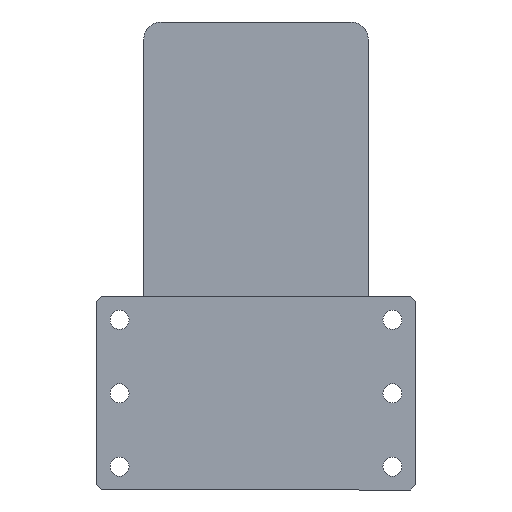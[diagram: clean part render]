
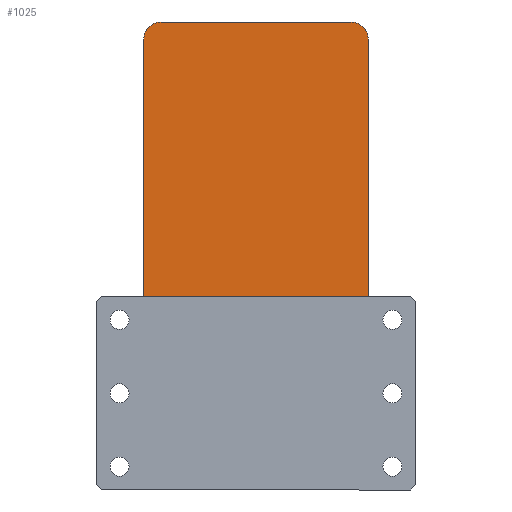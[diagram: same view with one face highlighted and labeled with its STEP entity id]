
A CAD part, left-side view. The second image highlights one B-rep face of the part: STEP entity #1025.
In plain terms, the highlighted planar face has unit normal (-1, 0, 0) as drawn and (0, 0, 1) by its records, which use the part's own axes.
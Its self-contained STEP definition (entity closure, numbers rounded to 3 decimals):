
#152 = DIRECTION ( 'NONE',  ( 1., 0., 0. ) ) ;
#250 = CARTESIAN_POINT ( 'NONE',  ( 0., 0., 105. ) ) ;
#677 = VERTEX_POINT ( 'NONE', #6018 ) ;
#1025 = ADVANCED_FACE ( 'NONE', ( #7111 ), #14486, .T. ) ;
#1672 = AXIS2_PLACEMENT_3D ( 'NONE', #17297, #17255, #17180 ) ;
#2142 = EDGE_LOOP ( 'NONE', ( #23034, #5863, #17728, #5828, #2657, #14661, #10537, #8788 ) ) ;
#2657 = ORIENTED_EDGE ( 'NONE', *, *, #6091, .T. ) ;
#3233 = VERTEX_POINT ( 'NONE', #5227 ) ;
#3436 = VERTEX_POINT ( 'NONE', #20830 ) ;
#4729 = VERTEX_POINT ( 'NONE', #19080 ) ;
#5131 = CIRCLE ( 'NONE', #8471, 10. ) ;
#5227 = CARTESIAN_POINT ( 'NONE',  ( -55., -135., 105. ) ) ;
#5479 = AXIS2_PLACEMENT_3D ( 'NONE', #250, #11983, #152 ) ;
#5594 = CIRCLE ( 'NONE', #1672, 10. ) ;
#5670 = EDGE_CURVE ( 'NONE', #10056, #15670, #12914, .T. ) ;
#5767 = CIRCLE ( 'NONE', #19771, 10. ) ;
#5828 = ORIENTED_EDGE ( 'NONE', *, *, #8719, .T. ) ;
#5863 = ORIENTED_EDGE ( 'NONE', *, *, #8614, .T. ) ;
#5926 = CIRCLE ( 'NONE', #14294, 10. ) ;
#6018 = CARTESIAN_POINT ( 'NONE',  ( -55., 135., 105. ) ) ;
#6091 = EDGE_CURVE ( 'NONE', #3436, #677, #11965, .T. ) ;
#6906 = LINE ( 'NONE', #23018, #6960 ) ;
#6960 = VECTOR ( 'NONE', #22925, 1000. ) ;
#7099 = CARTESIAN_POINT ( 'NONE',  ( -65., 135., 105. ) ) ;
#7111 = FACE_OUTER_BOUND ( 'NONE', #2142, .T. ) ;
#7826 = EDGE_CURVE ( 'NONE', #7908, #15926, #8457, .T. ) ;
#7908 = VERTEX_POINT ( 'NONE', #15443 ) ;
#8275 = EDGE_CURVE ( 'NONE', #3233, #4729, #6906, .T. ) ;
#8429 = VECTOR ( 'NONE', #20681, 1000. ) ;
#8457 = LINE ( 'NONE', #7099, #8429 ) ;
#8471 = AXIS2_PLACEMENT_3D ( 'NONE', #16518, #16495, #16465 ) ;
#8614 = EDGE_CURVE ( 'NONE', #4729, #10056, #5926, .T. ) ;
#8678 = CARTESIAN_POINT ( 'NONE',  ( -65., -125., 105. ) ) ;
#8719 = EDGE_CURVE ( 'NONE', #15670, #3436, #5767, .T. ) ;
#8788 = ORIENTED_EDGE ( 'NONE', *, *, #8948, .T. ) ;
#8880 = EDGE_CURVE ( 'NONE', #677, #7908, #5594, .T. ) ;
#8948 = EDGE_CURVE ( 'NONE', #15926, #3233, #5131, .T. ) ;
#10056 = VERTEX_POINT ( 'NONE', #23150 ) ;
#10537 = ORIENTED_EDGE ( 'NONE', *, *, #7826, .T. ) ;
#11497 = CARTESIAN_POINT ( 'NONE',  ( 65., 125., 105. ) ) ;
#11945 = VECTOR ( 'NONE', #16866, 1000. ) ;
#11965 = LINE ( 'NONE', #17205, #11945 ) ;
#11983 = DIRECTION ( 'NONE',  ( 0., 0., 1. ) ) ;
#12914 = LINE ( 'NONE', #21493, #12960 ) ;
#12960 = VECTOR ( 'NONE', #21489, 1000. ) ;
#14294 = AXIS2_PLACEMENT_3D ( 'NONE', #19742, #19724, #19701 ) ;
#14486 = PLANE ( 'NONE',  #5479 ) ;
#14661 = ORIENTED_EDGE ( 'NONE', *, *, #8880, .T. ) ;
#15443 = CARTESIAN_POINT ( 'NONE',  ( -65., 125., 105. ) ) ;
#15670 = VERTEX_POINT ( 'NONE', #11497 ) ;
#15926 = VERTEX_POINT ( 'NONE', #8678 ) ;
#16465 = DIRECTION ( 'NONE',  ( 1., 0., 0. ) ) ;
#16495 = DIRECTION ( 'NONE',  ( 0., 0., 1. ) ) ;
#16518 = CARTESIAN_POINT ( 'NONE',  ( -55., -125., 105. ) ) ;
#16866 = DIRECTION ( 'NONE',  ( -1., 0., 0. ) ) ;
#17180 = DIRECTION ( 'NONE',  ( 1., 0., 0. ) ) ;
#17205 = CARTESIAN_POINT ( 'NONE',  ( -65., 135., 105. ) ) ;
#17255 = DIRECTION ( 'NONE',  ( 0., 0., 1. ) ) ;
#17297 = CARTESIAN_POINT ( 'NONE',  ( -55., 125., 105. ) ) ;
#17728 = ORIENTED_EDGE ( 'NONE', *, *, #5670, .T. ) ;
#18391 = DIRECTION ( 'NONE',  ( 1., 0., 0. ) ) ;
#18463 = DIRECTION ( 'NONE',  ( 0., 0., 1. ) ) ;
#18481 = CARTESIAN_POINT ( 'NONE',  ( 55., 125., 105. ) ) ;
#19080 = CARTESIAN_POINT ( 'NONE',  ( 55., -135., 105. ) ) ;
#19701 = DIRECTION ( 'NONE',  ( 1., 0., 0. ) ) ;
#19724 = DIRECTION ( 'NONE',  ( 0., 0., 1. ) ) ;
#19742 = CARTESIAN_POINT ( 'NONE',  ( 55., -125., 105. ) ) ;
#19771 = AXIS2_PLACEMENT_3D ( 'NONE', #18481, #18463, #18391 ) ;
#20681 = DIRECTION ( 'NONE',  ( 0., -1., 0. ) ) ;
#20830 = CARTESIAN_POINT ( 'NONE',  ( 55., 135., 105. ) ) ;
#21489 = DIRECTION ( 'NONE',  ( 0., 1., 0. ) ) ;
#21493 = CARTESIAN_POINT ( 'NONE',  ( 65., 135., 105. ) ) ;
#22925 = DIRECTION ( 'NONE',  ( 1., 0., 0. ) ) ;
#23018 = CARTESIAN_POINT ( 'NONE',  ( -65., -135., 105. ) ) ;
#23034 = ORIENTED_EDGE ( 'NONE', *, *, #8275, .T. ) ;
#23150 = CARTESIAN_POINT ( 'NONE',  ( 65., -125., 105. ) ) ;
